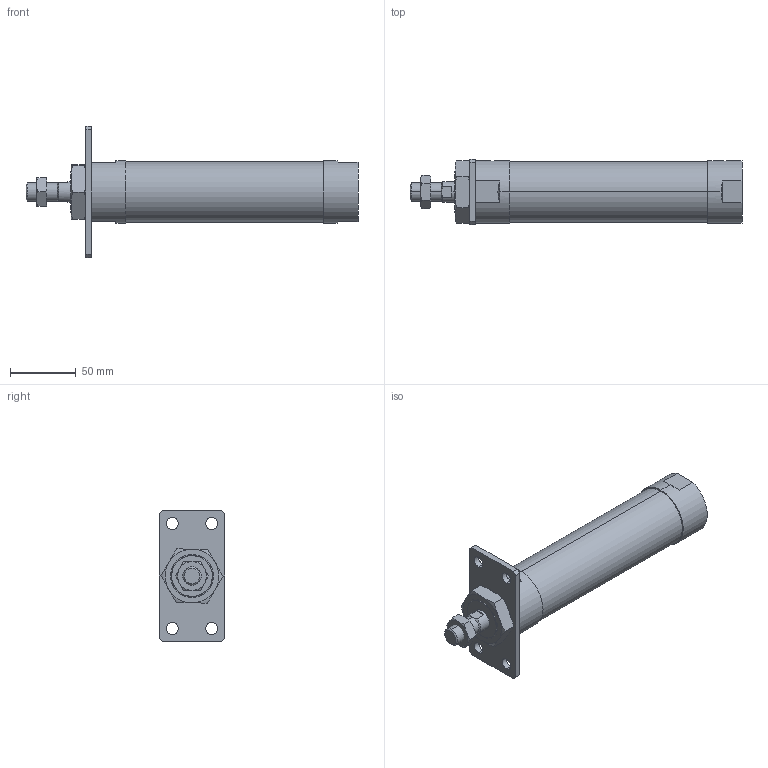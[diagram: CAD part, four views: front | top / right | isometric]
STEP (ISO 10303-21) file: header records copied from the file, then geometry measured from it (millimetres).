
FILE_DESCRIPTION (( 'STEP AP203' ), '1' );
FILE_NAME ('JGND2-40-100-A.STEP', '2016-08-04T03:10:03', ( '' ), ( '' ), 'SwSTEP 2.0', 'SolidWorks 2014', '' );
FILE_SCHEMA (( 'CONFIG_CONTROL_DESIGN' ));
Length unit declared in the file: millimetre
Products named in the file (5): J#2-40-100(P); JGND2-40-100-A; J#2-40-A
Assembly tree (4 placements, depth 2):
  JGND2-40-100-A
    J#2-40-100(P)
    (unnamed)
    (unnamed)
    J#2-40-A
Bounding box: 253 x 50 x 100 mm (x, y, z)
Volume: 387825.2 mm3; surface area: 53345.3 mm2
Topology: 4 solids, 4 shells, 109 faces, 254 edges, 155 vertices
Faces by surface type: plane 42, cylinder 30, torus 24, cone 13
Entity records: 4068 total; most frequent: CARTESIAN_POINT 1112, DIRECTION 511, ORIENTED_EDGE 500, EDGE_CURVE 250, AXIS2_PLACEMENT_3D 208, VERTEX_POINT 155, EDGE_LOOP 129, FACE_OUTER_BOUND 109
